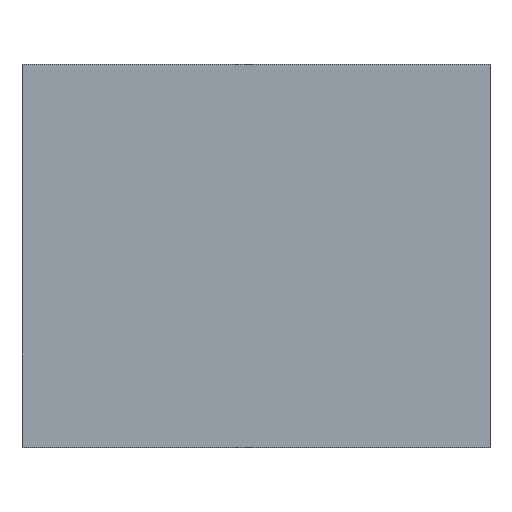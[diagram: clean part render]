
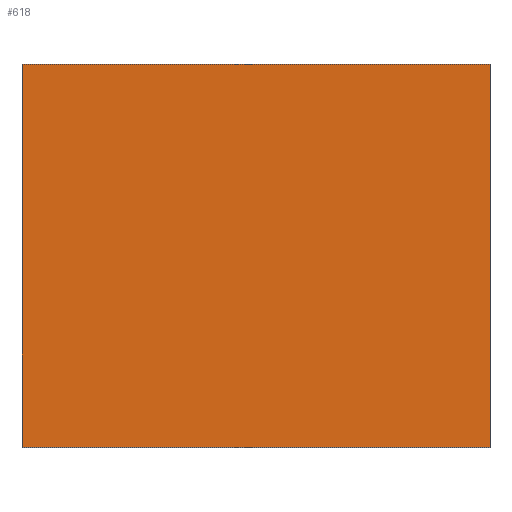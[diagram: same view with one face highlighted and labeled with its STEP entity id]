
A CAD part, top view. The second image highlights one B-rep face of the part: STEP entity #618.
In plain terms, the highlighted planar face has unit normal (0, 0, 1).
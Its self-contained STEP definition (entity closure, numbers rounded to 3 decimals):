
#21 = DIRECTION ( 'NONE',  ( 1., 0., 0. ) ) ;
#23 = LINE ( 'NONE', #658, #349 ) ;
#59 = CARTESIAN_POINT ( 'NONE',  ( 0., 0., 19. ) ) ;
#109 = DIRECTION ( 'NONE',  ( -1., 0., 0. ) ) ;
#174 = CARTESIAN_POINT ( 'NONE',  ( 66., 0., 19. ) ) ;
#196 = EDGE_LOOP ( 'NONE', ( #569, #248, #324, #900 ) ) ;
#200 = PLANE ( 'NONE',  #857 ) ;
#233 = DIRECTION ( 'NONE',  ( -1., 0., 0. ) ) ;
#248 = ORIENTED_EDGE ( 'NONE', *, *, #966, .T. ) ;
#270 = VERTEX_POINT ( 'NONE', #59 ) ;
#271 = DIRECTION ( 'NONE',  ( 0., 1., 0. ) ) ;
#295 = CARTESIAN_POINT ( 'NONE',  ( 0., 0., 19. ) ) ;
#308 = FACE_OUTER_BOUND ( 'NONE', #196, .T. ) ;
#324 = ORIENTED_EDGE ( 'NONE', *, *, #869, .T. ) ;
#337 = VECTOR ( 'NONE', #21, 1000. ) ;
#349 = VECTOR ( 'NONE', #397, 1000. ) ;
#360 = VERTEX_POINT ( 'NONE', #961 ) ;
#397 = DIRECTION ( 'NONE',  ( 0., -1., 0. ) ) ;
#456 = LINE ( 'NONE', #174, #816 ) ;
#461 = CARTESIAN_POINT ( 'NONE',  ( 66., 54., 19. ) ) ;
#521 = VECTOR ( 'NONE', #233, 1000. ) ;
#557 = DIRECTION ( 'NONE',  ( 0., 0., -1. ) ) ;
#569 = ORIENTED_EDGE ( 'NONE', *, *, #633, .T. ) ;
#587 = LINE ( 'NONE', #772, #521 ) ;
#618 = ADVANCED_FACE ( 'NONE', ( #308 ), #200, .F. ) ;
#633 = EDGE_CURVE ( 'NONE', #360, #270, #23, .T. ) ;
#642 = CARTESIAN_POINT ( 'NONE',  ( 66., 0., 19. ) ) ;
#658 = CARTESIAN_POINT ( 'NONE',  ( 0., 0., 19. ) ) ;
#669 = EDGE_CURVE ( 'NONE', #855, #360, #587, .T. ) ;
#756 = CARTESIAN_POINT ( 'NONE',  ( 0., 0., 19. ) ) ;
#772 = CARTESIAN_POINT ( 'NONE',  ( 0., 54., 19. ) ) ;
#816 = VECTOR ( 'NONE', #271, 1000. ) ;
#855 = VERTEX_POINT ( 'NONE', #461 ) ;
#857 = AXIS2_PLACEMENT_3D ( 'NONE', #756, #557, #109 ) ;
#869 = EDGE_CURVE ( 'NONE', #924, #855, #456, .T. ) ;
#900 = ORIENTED_EDGE ( 'NONE', *, *, #669, .T. ) ;
#924 = VERTEX_POINT ( 'NONE', #642 ) ;
#961 = CARTESIAN_POINT ( 'NONE',  ( 0., 54., 19. ) ) ;
#966 = EDGE_CURVE ( 'NONE', #270, #924, #1008, .T. ) ;
#1008 = LINE ( 'NONE', #295, #337 ) ;
